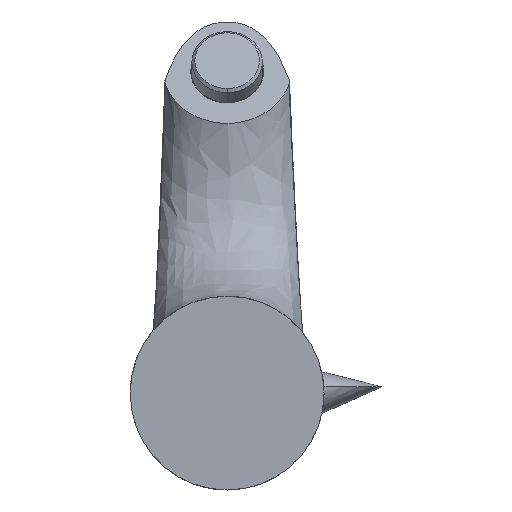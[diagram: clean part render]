
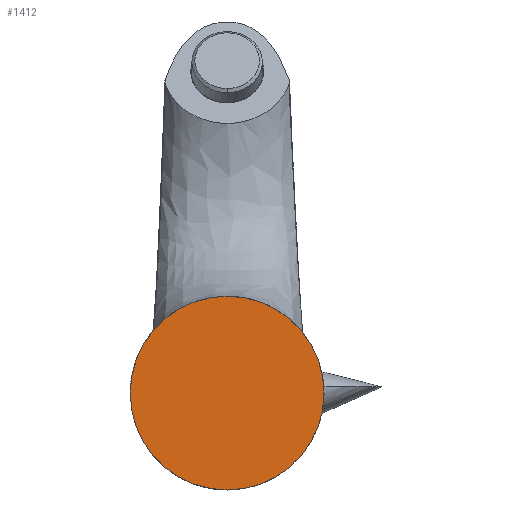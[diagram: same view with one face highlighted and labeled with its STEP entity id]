
A CAD part, front view. The second image highlights one B-rep face of the part: STEP entity #1412.
In plain terms, the highlighted planar face has unit normal (0, -1, 0).
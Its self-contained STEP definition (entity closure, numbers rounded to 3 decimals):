
#4 = EDGE_CURVE ( 'NONE', #3523, #3345, #5685, .T. ) ;
#559 = CARTESIAN_POINT ( 'NONE',  ( 0., 0., 0. ) ) ;
#738 = CARTESIAN_POINT ( 'NONE',  ( -1.556, 0., -28.337 ) ) ;
#1131 = ORIENTED_EDGE ( 'NONE', *, *, #4981, .T. ) ;
#1194 = PLANE ( 'NONE',  #5461 ) ;
#1412 = ADVANCED_FACE ( 'NONE', ( #1680 ), #1194, .T. ) ;
#1510 = AXIS2_PLACEMENT_3D ( 'NONE', #5455, #3140, #4997 ) ;
#1680 = FACE_OUTER_BOUND ( 'NONE', #2563, .T. ) ;
#1880 = AXIS2_PLACEMENT_3D ( 'NONE', #559, #3259, #4176 ) ;
#2198 = DIRECTION ( 'NONE',  ( 0., -1., 0. ) ) ;
#2563 = EDGE_LOOP ( 'NONE', ( #5334, #1131 ) ) ;
#2619 = DIRECTION ( 'NONE',  ( 0., 0., -1. ) ) ;
#3140 = DIRECTION ( 'NONE',  ( 0., -1., 0. ) ) ;
#3172 = CARTESIAN_POINT ( 'NONE',  ( -32.54, 0., 0. ) ) ;
#3259 = DIRECTION ( 'NONE',  ( 0., -1., 0. ) ) ;
#3345 = VERTEX_POINT ( 'NONE', #3172 ) ;
#3523 = VERTEX_POINT ( 'NONE', #5041 ) ;
#4176 = DIRECTION ( 'NONE',  ( 1., 0., 0. ) ) ;
#4981 = EDGE_CURVE ( 'NONE', #3345, #3523, #5076, .T. ) ;
#4997 = DIRECTION ( 'NONE',  ( 1., 0., 0. ) ) ;
#5041 = CARTESIAN_POINT ( 'NONE',  ( 32.54, 0., 0. ) ) ;
#5076 = CIRCLE ( 'NONE', #1880, 32.54 ) ;
#5334 = ORIENTED_EDGE ( 'NONE', *, *, #4, .T. ) ;
#5455 = CARTESIAN_POINT ( 'NONE',  ( 0., 0., 0. ) ) ;
#5461 = AXIS2_PLACEMENT_3D ( 'NONE', #738, #2198, #2619 ) ;
#5685 = CIRCLE ( 'NONE', #1510, 32.54 ) ;
